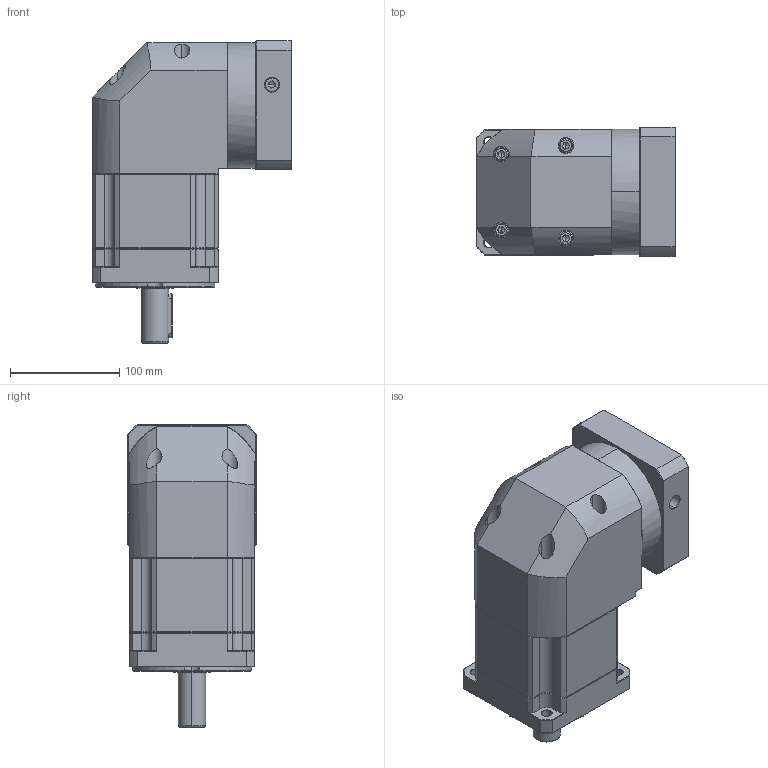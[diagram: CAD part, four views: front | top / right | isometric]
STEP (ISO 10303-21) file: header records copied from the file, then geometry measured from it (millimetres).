
FILE_DESCRIPTION (( 'STEP AP214' ), '1' );
FILE_NAME ('ZBR115A-D25-L2-P2-24-95-115-M6.step', '2023-08-26T12:33:30', ( '' ), ( '' ), 'SwSTEP 2.0', 'SolidWorks 2016', '' );
FILE_SCHEMA (( 'AUTOMOTIVE_DESIGN' ));
Length unit declared in the file: millimetre
Products named in the file (1): ZBR115A-D25-L2-P2-24-95-115-M6
Bounding box: 182.4 x 118 x 276.5 mm (x, y, z)
Volume: 3188532.5 mm3; surface area: 250127.5 mm2
Topology: 6 solids, 6 shells, 2366 faces, 6186 edges, 3923 vertices
Faces by surface type: plane 1138, bspline 428, cylinder 424, cone 368, torus 8
Entity records: 128213 total; most frequent: CARTESIAN_POINT 47623, ORIENTED_EDGE 12312, DIRECTION 9711, EDGE_CURVE 6156, LINE 3969, VECTOR 3969, VERTEX_POINT 3923, AXIS2_PLACEMENT_3D 2871
